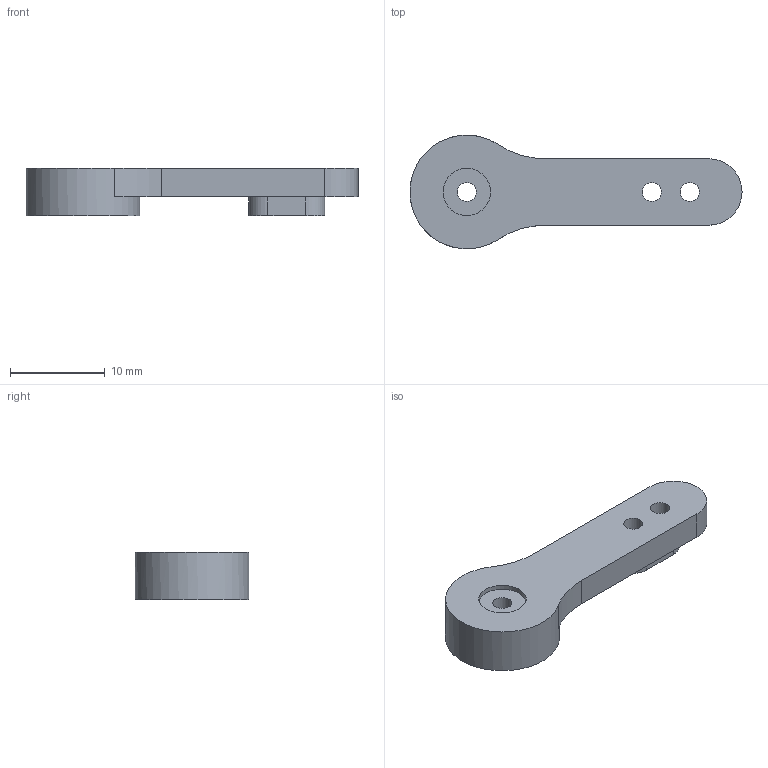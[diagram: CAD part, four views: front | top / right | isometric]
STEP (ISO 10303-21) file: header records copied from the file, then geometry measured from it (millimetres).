
FILE_DESCRIPTION(/* description */ ('STEP AP242','CAx-IF Rec.Pracs.---Representation and Presentation of Product Manufacturing Information (PMI)---4.0---2014-10-13','CAx-IF Rec.Pracs.---3D Tessellated Geometry---0.4---2014-09-14','2;1'),/* implementation_level */ '2;1');
FILE_NAME(/* name */ 'Arm Assembly - Part 1 (3)',/* time_stamp */ '2025-06-20T22:34:14Z',/* author */ (''),/* organization */ (''),/* preprocessor_version */ 'ST-DEVELOPER v20',/* originating_system */ 'ONSHAPE BY PTC INC, 1.199',/* authorisation */ ' ');
FILE_SCHEMA (('AP242_MANAGED_MODEL_BASED_3D_ENGINEERING_MIM_LF { 1 0 10303 442 1 1 4 }'));
Length unit declared in the file: metre
Products named in the file (1): Part 1
Bounding box: 34.99 x 11.98 x 5 mm (x, y, z)
Volume: 1007.3 mm3; surface area: 1012.8 mm2
Topology: 1 solids, 1 shells, 21 faces, 48 edges, 32 vertices
Faces by surface type: cylinder 11, plane 10
Full cylindrical faces by diameter (mm): 2 x3, 5 x2, 12 x1
Entity records: 600 total; most frequent: DIRECTION 108, CARTESIAN_POINT 94, ORIENTED_EDGE 82, AXIS2_PLACEMENT_3D 45, EDGE_CURVE 41, EDGE_LOOP 36, FACE_BOUND 36, VERTEX_POINT 31
